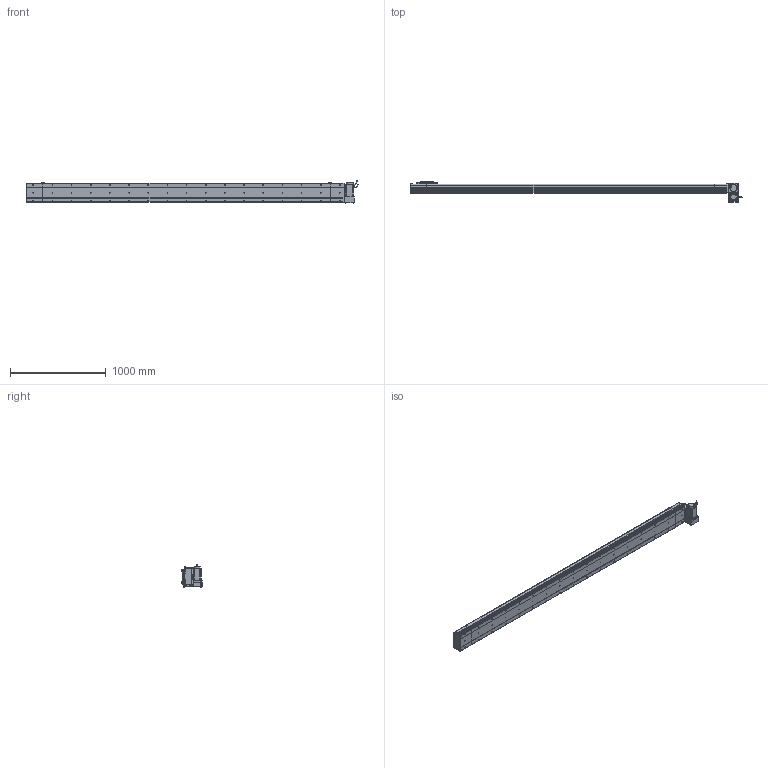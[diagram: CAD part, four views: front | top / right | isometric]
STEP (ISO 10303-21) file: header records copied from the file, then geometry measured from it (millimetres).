
FILE_DESCRIPTION (( 'STEP AP214' ), '1' );
FILE_NAME ('D20 CBH RU S3000.STEP', '2010-06-30T10:37:08', ( 'Conseil Régional Haute-Normandie' ), ( 'Conseil Régional Haute-Normandie' ), 'SwSTEP 2.0', 'SolidWorks 2010', '' );
FILE_SCHEMA (( 'AUTOMOTIVE_DESIGN' ));
Length unit declared in the file: millimetre
Products named in the file (31): Couvercle_Default; Corp Tail D20_Default; Tail D20_Default; Glissiere_Default; Rondelle Cache D20 RU_Default; Cache Support Moteur RU_Default; Chariot D20_Default; Support Chariot D20_Default; Moteur motionking 90BLDC125A-640; Couvercle S3000_Default; Corp S3000_Default; avant 90BLDC125A-640; Conecteur2_Default; codeur 90BLDC125-640; corps 90BLDC125A-640; Corp D20 S3000_Default; vis M5 L47_Default; ecrou_Default; vis M5 L30_Default; Conecteur_Default; Plaque de Bout Tail D20_Default; Plaque De Serrage D20_Default; vis M5 L15_Default; D20 CBH RU S3000; Support moteur RU_Default; Plaque de Bout Head D20 RU_Default; Head RU_Default; Plaque De Serrage D20 RU_Default; Couvercle RU_Default; Corp Tail D20 RU_Default
Assembly tree (66 placements, depth 4):
  D20 CBH RU S3000
    Chariot D20_Default
      vis M5 L15_Default  x8
      Support Chariot D20_Default
      Glissiere_Default
      Chariot D20_Default
    Tail D20_Default
      vis M5 L15_Default  x6
      Plaque de Bout Tail D20_Default
      Corp Tail D20_Default
      Couvercle_Default
      Plaque De Serrage D20_Default
    Corp D20 S3000_Default
      Couvercle S3000_Default
      Corp S3000_Default
    Head RU_Default
      ecrou_Default  x4
      vis M5 L15_Default  x12
      vis M5 L47_Default  x4
      Corp Tail D20 RU_Default
      Rondelle Cache D20 RU_Default  x3
      Cache Support Moteur RU_Default
      Couvercle RU_Default
      Plaque de Bout Head D20 RU_Default
      vis M5 L30_Default  x4
      Plaque De Serrage D20 RU_Default
      Support moteur RU_Default
      Moteur motionking 90BLDC125A-640
        Conecteur_Default
        Conecteur2_Default
        codeur 90BLDC125-640
        corps 90BLDC125A-640
        avant 90BLDC125A-640
Bounding box: 3464.45 x 209 x 229.7 mm (x, y, z)
Volume: 23241358.6 mm3; surface area: 4469393.7 mm2
Topology: 103 solids, 103 shells, 3814 faces, 9488 edges, 6166 vertices
Faces by surface type: plane 2111, bspline 806, cylinder 734, torus 91, cone 68, sphere 4
Entity records: 160606 total; most frequent: CARTESIAN_POINT 82506, ORIENTED_EDGE 15444, DIRECTION 11850, EDGE_CURVE 7722, VERTEX_POINT 5110, VECTOR 4966, LINE 4966, AXIS2_PLACEMENT_3D 3442
